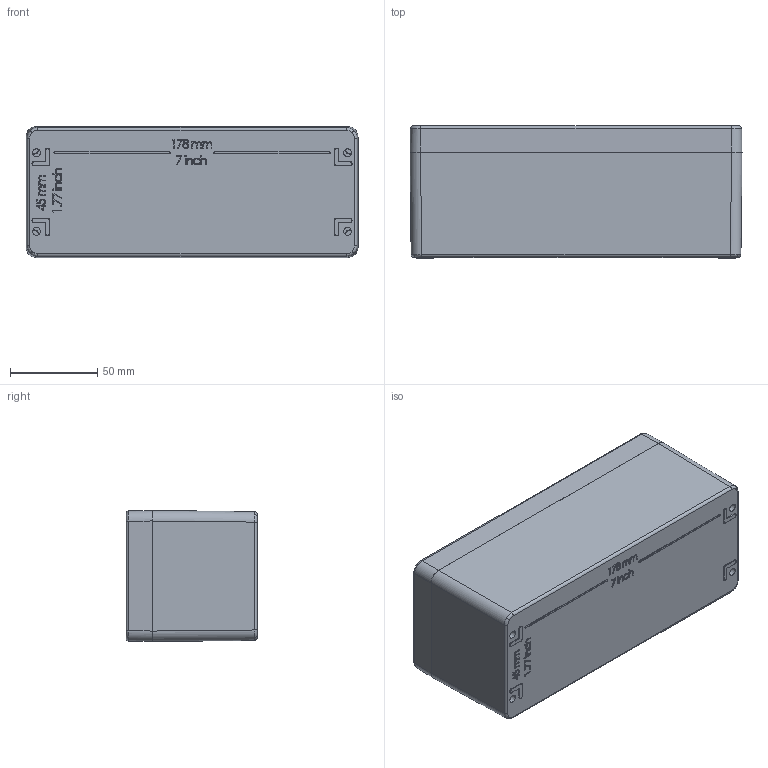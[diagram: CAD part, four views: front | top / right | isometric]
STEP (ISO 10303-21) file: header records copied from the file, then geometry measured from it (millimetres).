
FILE_DESCRIPTION (( 'STEP AP203' ), '1' );
FILE_NAME ('GRP ASSY 1907575.STEP', '2024-08-26T10:31:29', ( '' ), ( '' ), 'SwSTEP 2.0', 'SolidWorks 2018', '' );
FILE_SCHEMA (( 'CONFIG_CONTROL_DESIGN' ));
Length unit declared in the file: millimetre
Products named in the file (5): GRP LID 1907555; M4 BOTTOM INSERT; GRP BASE 1907575; GRP ASSY 1907575; M4 SS TOP INSERT
Assembly tree (12 placements, depth 2):
  GRP ASSY 1907575
    GRP BASE 1907575
    GRP LID 1907555
    M4 BOTTOM INSERT  x6
    M4 SS TOP INSERT  x4
Bounding box: 190 x 75.5 x 75 mm (x, y, z)
Volume: 316094.4 mm3; surface area: 140259 mm2
Topology: 12 solids, 12 shells, 1464 faces, 3742 edges, 2356 vertices
Faces by surface type: plane 443, cylinder 436, bspline 337, cone 208, torus 40
Entity records: 42196 total; most frequent: CARTESIAN_POINT 20170, ORIENTED_EDGE 4934, DIRECTION 3680, EDGE_CURVE 2467, VERTEX_POINT 1545, AXIS2_PLACEMENT_3D 1274, VECTOR 1132, LINE 1132
